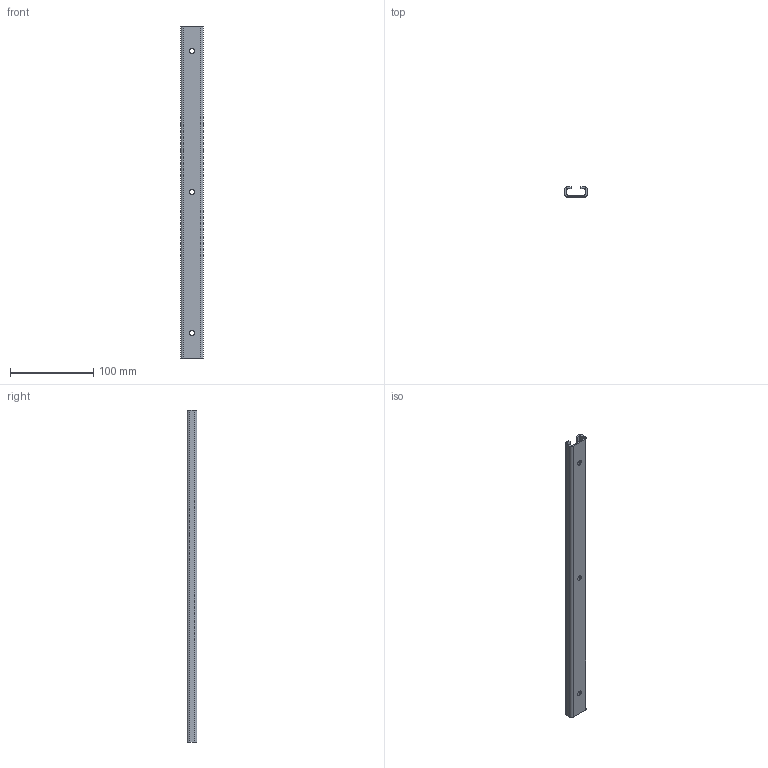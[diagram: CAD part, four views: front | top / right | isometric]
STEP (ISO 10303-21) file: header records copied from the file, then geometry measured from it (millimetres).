
FILE_DESCRIPTION (( 'STEP AP214' ), '1' );
FILE_NAME ('C-skena 400mm.STEP', '2014-04-10T14:33:10', ( '' ), ( '' ), 'SwSTEP 2.0', 'SolidWorks 2012', '' );
FILE_SCHEMA (( 'AUTOMOTIVE_DESIGN' ));
Length unit declared in the file: millimetre
Products named in the file (1): C-skena 400mm
Bounding box: 27 x 12 x 400 mm (x, y, z)
Volume: 43345.2 mm3; surface area: 45364.2 mm2
Topology: 1 solids, 1 shells, 28 faces, 78 edges, 52 vertices
Faces by surface type: plane 14, cylinder 8, cone 6
Entity records: 978 total; most frequent: DIRECTION 164, CARTESIAN_POINT 159, ORIENTED_EDGE 156, EDGE_CURVE 78, AXIS2_PLACEMENT_3D 57, VERTEX_POINT 52, LINE 50, VECTOR 50
